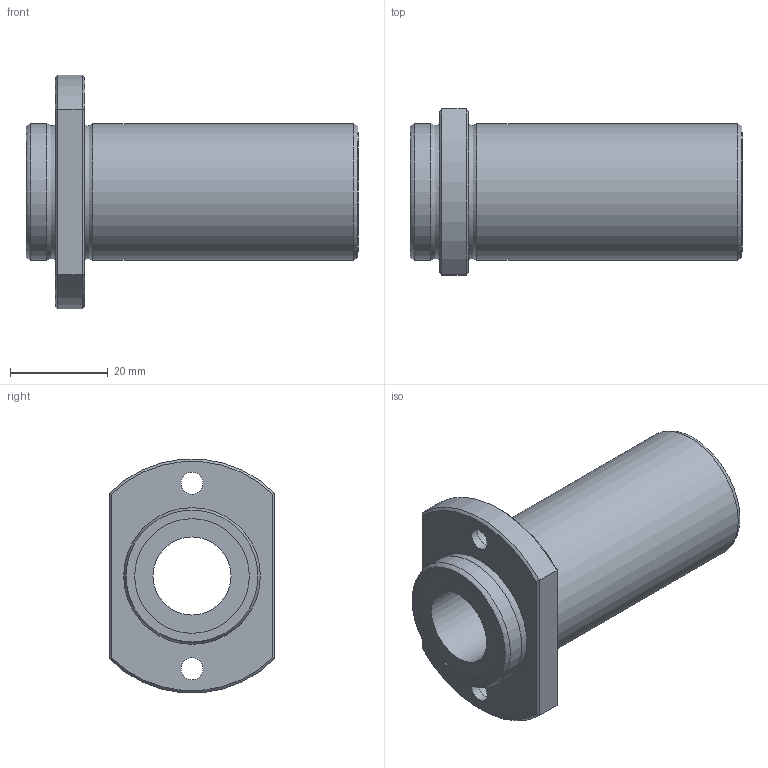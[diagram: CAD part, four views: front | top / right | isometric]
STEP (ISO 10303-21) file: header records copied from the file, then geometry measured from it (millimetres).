
FILE_DESCRIPTION((''),'2;1');
FILE_NAME('D:\製品 (図面)\カタログ用3D\リニアベアリング関連\STEP形式\LFDTB\LFDTB16.stp','2010-06-03T09:50:54',('Tsuchiya'),(''),'Autodesk Inventor 10','Autodesk Inventor 10','');
FILE_SCHEMA(('AUTOMOTIVE_DESIGN { 1 0 10303 214 1 1 1 1 }'));
Length unit declared in the file: millimetre
Products named in the file (1): LFDTB16
Bounding box: 68 x 34 x 47.82 mm (x, y, z)
Volume: 32704.2 mm3; surface area: 12403.4 mm2
Topology: 1 solids, 1 shells, 33 faces, 63 edges, 38 vertices
Faces by surface type: plane 12, bspline 8, cylinder 7, cone 4, torus 2
Full cylindrical faces by diameter (mm): 16 x1, 23.5 x2, 28 x2
Entity records: 977 total; most frequent: CARTESIAN_POINT 344, DIRECTION 124, ORIENTED_EDGE 100, EDGE_LOOP 58, AXIS2_PLACEMENT_3D 56, EDGE_CURVE 50, VERTEX_POINT 38, FACE_OUTER_BOUND 33
